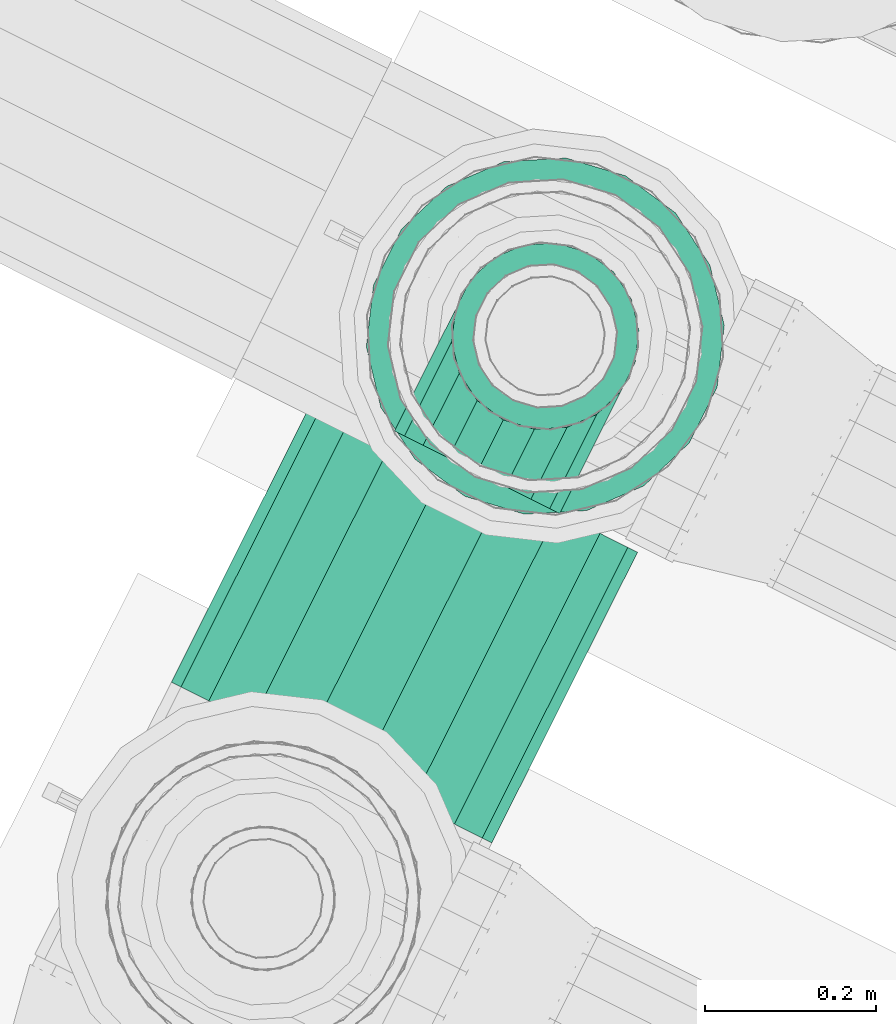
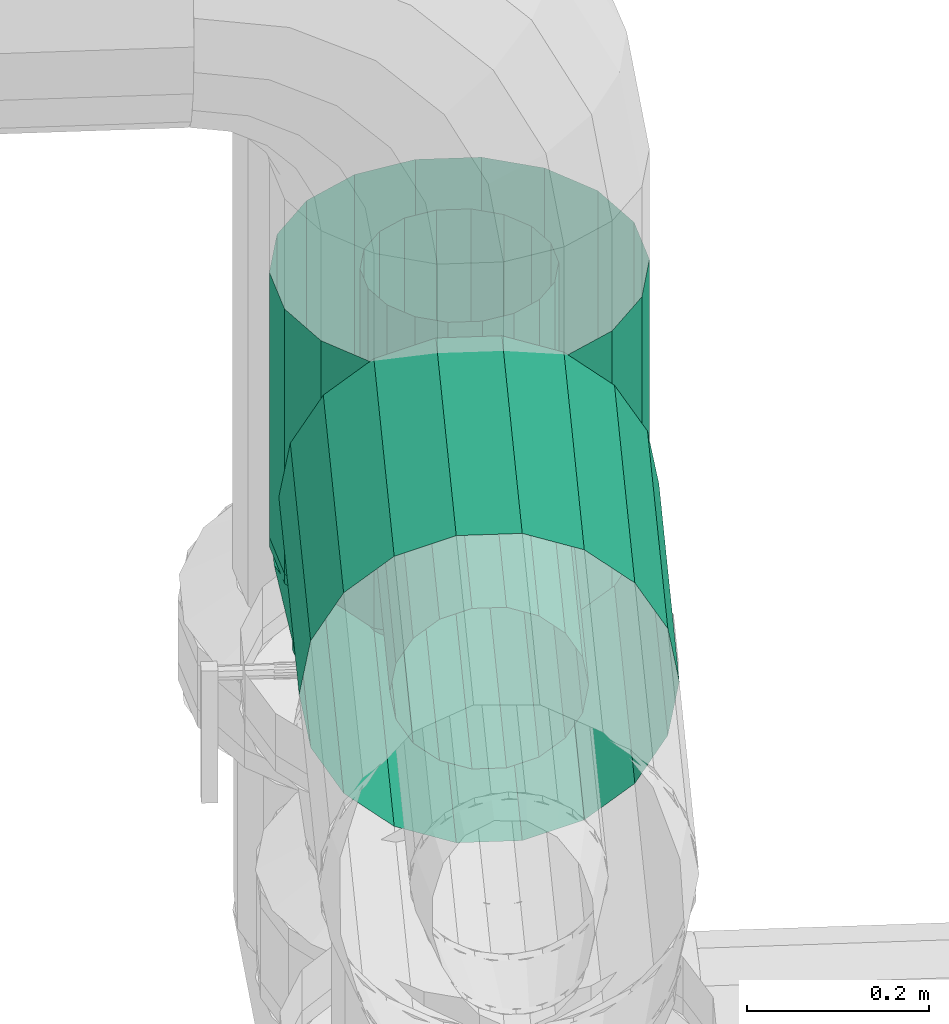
# One storey, part 112 of 152: 2 flow fittings, 1 flow segment.
"""IFC2X3 building model written with IfcOpenShell, lengths in metres."""

from ifc_helpers import new_model, si_unit, derived_unit, direction, frame, origin, place, context, subcontext, project, spatial, face_set, surface_model, source, transform, mapped, material, type_object, type_shapes, element, save


model = new_model("IFC2X3")

# Units and contexts
model_context = context("Model", 3, precision=5.2338327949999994e-05, world=origin(), true_north=direction((0.0, 1.0)))
body_context = subcontext(model_context, "Body", "Model", "MODEL_VIEW")
ifc_project = project(units=[si_unit("LENGTHUNIT", "METRE"), si_unit("AREAUNIT", "SQUARE_METRE"), si_unit("VOLUMEUNIT", "CUBIC_METRE"), si_unit("MASSUNIT", "GRAM", prefix="KILO"), si_unit("PLANEANGLEUNIT", "RADIAN"), derived_unit("THERMALTRANSMITTANCEUNIT", [(si_unit("MASSUNIT", "GRAM", prefix="KILO"), 1), (si_unit("THERMODYNAMICTEMPERATUREUNIT", "KELVIN"), -1), (si_unit("TIMEUNIT", "SECOND"), -3)])], contexts=[model_context])

# Site, building, storey
site_placement = place(None, frame((0.0, 0.0, 0.0), z_axis=(0.0, 0.0, 1.0), x_axis=(0.8939966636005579, -0.4480736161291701, 0.0)))
site = spatial("IfcSite", under=ifc_project, at=site_placement, Name="Default", CompositionType="ELEMENT")
building_placement = place(site_placement, origin())
building = spatial("IfcBuilding", under=site, at=building_placement, CompositionType="ELEMENT")
storey_placement = place(building_placement, frame((0.0, 0.0, 2.7499999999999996)))
storey = spatial("IfcBuildingStorey", under=building, at=storey_placement, Name="1. Obergeschoss", CompositionType="ELEMENT", Elevation=2.7499999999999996)

# Flow fitting
ifc_material = material(Name="IfcSurfaceStyle #9317")
distribution_element_type_1 = type_object("IfcDistributionElementType", Name="Abzweigstück 222781:Abzweigstück 222781", material=ifc_material)
shared_shape_1 = source(origin(), body_context, "Body", "SurfaceModel", [
    surface_model("IfcFaceBasedSurfaceModel", [(9.735320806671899, 7.327208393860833, 4.744306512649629), (9.728714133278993, 7.36467670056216, 4.744306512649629), (9.728714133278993, 7.36467670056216, 5.100306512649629), (9.735320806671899, 7.327208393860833, 5.100306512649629), (9.709690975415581, 7.397625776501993, 4.744306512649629), (9.709690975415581, 7.397625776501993, 5.100306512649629), (9.680545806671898, 7.422081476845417, 4.744306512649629), (9.680545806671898, 7.422081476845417, 5.100306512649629), (9.644793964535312, 7.43509408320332, 4.744306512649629), (9.644793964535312, 7.43509408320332, 5.100306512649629), (9.606747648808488, 7.435094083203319, 4.744306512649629), (9.606747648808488, 7.435094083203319, 5.100306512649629), (9.570995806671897, 7.422081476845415, 4.744306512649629), (9.570995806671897, 7.422081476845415, 5.100306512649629), (9.541850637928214, 7.39762577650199, 4.744306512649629), (9.541850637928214, 7.39762577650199, 5.100306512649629), (9.522827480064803, 7.364676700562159, 4.744306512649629), (9.522827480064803, 7.364676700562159, 5.100306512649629), (9.516220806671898, 7.327208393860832, 4.744306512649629), (9.516220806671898, 7.327208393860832, 5.100306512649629), (9.522827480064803, 7.289740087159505, 4.744306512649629), (9.522827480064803, 7.289740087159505, 5.100306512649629), (9.541850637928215, 7.256791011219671, 4.744306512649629), (9.541850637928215, 7.256791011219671, 5.100306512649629), (9.570995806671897, 7.232335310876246, 4.744306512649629), (9.570995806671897, 7.232335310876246, 5.100306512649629), (9.606747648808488, 7.219322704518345, 4.744306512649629), (9.606747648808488, 7.219322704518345, 5.100306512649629), (9.644793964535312, 7.219322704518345, 4.744306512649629), (9.644793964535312, 7.219322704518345, 5.100306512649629), (9.6805458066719, 7.2323353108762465, 4.744306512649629), (9.6805458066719, 7.2323353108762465, 5.100306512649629), (9.709690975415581, 7.256791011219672, 4.744306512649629), (9.709690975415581, 7.256791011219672, 5.100306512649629), (9.728714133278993, 7.2897400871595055, 4.744306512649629), (9.728714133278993, 7.2897400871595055, 5.100306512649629), (9.8353208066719, 7.327208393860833, 4.744306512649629), (9.822683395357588, 7.398878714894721, 4.744306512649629), (9.822683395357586, 7.398878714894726, 5.100306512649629), (9.8353208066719, 7.327208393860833, 5.100306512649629), (9.786295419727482, 7.461904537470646, 4.744306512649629), (9.786295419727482, 7.461904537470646, 5.100306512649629), (9.730545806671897, 7.508684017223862, 4.744306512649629), (9.730545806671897, 7.508684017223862, 5.100306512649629), (9.662158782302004, 7.53357485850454, 4.744306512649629), (9.662158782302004, 7.53357485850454, 5.100306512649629), (9.589382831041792, 7.53357485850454, 4.744306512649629), (9.589382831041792, 7.53357485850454, 5.100306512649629), (9.5209958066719, 7.508684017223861, 4.744306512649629), (9.5209958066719, 7.508684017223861, 5.100306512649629), (9.465246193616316, 7.4619045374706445, 4.744306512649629), (9.465246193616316, 7.4619045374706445, 5.100306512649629), (9.428858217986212, 7.398878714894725, 4.744306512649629), (9.428858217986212, 7.398878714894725, 5.100306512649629), (9.4162208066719, 7.32720839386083, 4.744306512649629), (9.4162208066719, 7.32720839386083, 5.100306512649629), (9.428858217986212, 7.255538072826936, 4.744306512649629), (9.428858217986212, 7.255538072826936, 5.100306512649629), (9.465246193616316, 7.192512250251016, 4.744306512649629), (9.465246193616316, 7.192512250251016, 5.100306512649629), (9.520995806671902, 7.145732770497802, 4.744306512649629), (9.520995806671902, 7.145732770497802, 5.100306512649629), (9.589382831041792, 7.1208419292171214, 4.744306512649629), (9.589382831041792, 7.1208419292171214, 5.100306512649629), (9.662158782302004, 7.120841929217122, 4.744306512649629), (9.662158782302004, 7.120841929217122, 5.100306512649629), (9.730545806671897, 7.145732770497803, 4.744306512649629), (9.730545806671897, 7.145732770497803, 5.100306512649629), (9.786295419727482, 7.192512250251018, 4.744306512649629), (9.786295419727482, 7.192512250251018, 5.100306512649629), (9.822683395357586, 7.255538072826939, 4.744306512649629), (9.822683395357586, 7.255538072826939, 5.100306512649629), (9.625770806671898, 7.217658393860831, 5.031856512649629), (9.588302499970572, 7.224265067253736, 5.025249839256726), (9.588302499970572, 7.149208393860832, 5.025249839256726), (9.625770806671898, 7.149208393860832, 5.031856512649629), (9.555353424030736, 7.243288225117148, 5.006226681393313), (9.555353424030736, 7.149208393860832, 5.006226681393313), (9.530897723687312, 7.272433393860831, 4.977081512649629), (9.530897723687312, 7.149208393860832, 4.977081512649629), (9.517885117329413, 7.30818523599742, 4.941329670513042), (9.517885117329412, 7.149208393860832, 4.941329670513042), (9.517885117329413, 7.30818523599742, 4.903283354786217), (9.517885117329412, 7.149208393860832, 4.903283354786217), (9.530897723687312, 7.272433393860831, 4.867531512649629), (9.530897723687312, 7.149208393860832, 4.867531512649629), (9.555353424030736, 7.243288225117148, 4.8383863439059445), (9.555353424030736, 7.149208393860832, 4.838386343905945), (9.588302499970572, 7.224265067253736, 4.819363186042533), (9.588302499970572, 7.149208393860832, 4.819363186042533), (9.625770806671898, 7.217658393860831, 4.812756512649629), (9.625770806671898, 7.149208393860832, 4.812756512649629), (9.663239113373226, 7.224265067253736, 4.8193631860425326), (9.663239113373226, 7.149208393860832, 4.8193631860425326), (9.696188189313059, 7.243288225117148, 4.838386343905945), (9.696188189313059, 7.149208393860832, 4.838386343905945), (9.72064388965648, 7.272433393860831, 4.867531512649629), (9.720643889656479, 7.149208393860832, 4.867531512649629), (9.733656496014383, 7.30818523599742, 4.9032833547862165), (9.733656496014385, 7.149208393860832, 4.9032833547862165), (9.733656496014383, 7.30818523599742, 4.941329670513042), (9.733656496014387, 7.149208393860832, 4.941329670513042), (9.72064388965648, 7.272433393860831, 4.977081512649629), (9.72064388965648, 7.149208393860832, 4.9770815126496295), (9.696188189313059, 7.243288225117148, 5.006226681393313), (9.696188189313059, 7.149208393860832, 5.006226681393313), (9.663239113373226, 7.224265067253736, 5.025249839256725), (9.663239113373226, 7.149208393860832, 5.025249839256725)], [face_set([[[0, 1, 2, 3]], [[1, 4, 5, 2]], [[4, 6, 7, 5]], [[6, 8, 9, 7]], [[8, 10, 11, 9]], [[10, 12, 13, 11]], [[12, 14, 15, 13]], [[14, 16, 17, 15]], [[16, 18, 19, 17]], [[18, 20, 21, 19]], [[20, 22, 23, 21]], [[22, 24, 25, 23]], [[24, 26, 27, 25]], [[26, 28, 29, 27]], [[28, 30, 31, 29]], [[30, 32, 33, 31]], [[32, 34, 35, 33]], [[34, 0, 3, 35]], [[36, 37, 38, 39]], [[37, 40, 41, 38]], [[40, 42, 43, 41]], [[42, 44, 45, 43]], [[44, 46, 47, 45]], [[46, 48, 49, 47]], [[48, 50, 51, 49]], [[50, 52, 53, 51]], [[52, 54, 55, 53]], [[54, 56, 57, 55]], [[56, 58, 59, 57]], [[58, 60, 61, 59]], [[60, 62, 63, 61]], [[62, 64, 65, 63]], [[64, 66, 67, 65]], [[66, 68, 69, 67]], [[68, 70, 71, 69]], [[70, 36, 39, 71]], [[72, 73, 74, 75]], [[73, 76, 77, 74]], [[76, 78, 79, 77]], [[78, 80, 81, 79]], [[80, 82, 83, 81]], [[82, 84, 85, 83]], [[84, 86, 87, 85]], [[86, 88, 89, 87]], [[88, 90, 91, 89]], [[90, 92, 93, 91]], [[92, 94, 95, 93]], [[94, 96, 97, 95]], [[96, 98, 99, 97]], [[98, 100, 101, 99]], [[100, 102, 103, 101]], [[102, 104, 105, 103]], [[104, 106, 107, 105]], [[106, 72, 75, 107]]])]),
])
type_shapes(distribution_element_type_1, [shared_shape_1])
flow_fitting_1_placement = place(storey_placement, frame((0.0, 0.0, -2.7499999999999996)))
element("IfcFlowFitting", 1, at=flow_fitting_1_placement, inside=storey, type_object=distribution_element_type_1, material=ifc_material, Name="Abzweigstück", ObjectType="Abzweigstück", context=body_context, shape_type="MappedRepresentation", body=[
    mapped(shared_shape_1, transform((0.0, 0.0, 0.0), scale=1.0)),
])

# Flow segment
distribution_element_type_2 = type_object("IfcDistributionElementType", Name="Stahlrohr nach DIN 2448 222999:Stahlrohr nach DIN 2448 222999", material=ifc_material)
shared_shape_2 = source(origin(), body_context, "Body", "SurfaceModel", [
    surface_model("IfcFaceBasedSurfaceModel", [(9.5162208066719, 6.769748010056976, 4.92230651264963), (9.522827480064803, 6.769748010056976, 4.959774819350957), (9.522827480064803, 7.149748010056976, 4.959774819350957), (9.5162208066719, 7.149748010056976, 4.92230651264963), (9.541850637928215, 6.769748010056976, 4.992723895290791), (9.541850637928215, 7.149748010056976, 4.992723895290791), (9.570995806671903, 6.769748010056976, 5.017179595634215), (9.570995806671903, 7.149748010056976, 5.017179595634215), (9.606747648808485, 6.769748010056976, 5.030192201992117), (9.606747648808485, 7.149748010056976, 5.030192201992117), (9.64479396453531, 6.769748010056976, 5.030192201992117), (9.64479396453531, 7.149748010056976, 5.030192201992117), (9.6805458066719, 6.769748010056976, 5.017179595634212), (9.6805458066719, 7.149748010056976, 5.017179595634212), (9.709690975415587, 6.769748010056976, 4.992723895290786), (9.709690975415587, 7.149748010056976, 4.992723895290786), (9.728714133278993, 6.769748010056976, 4.959774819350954), (9.728714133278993, 7.149748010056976, 4.959774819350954), (9.735320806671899, 6.769748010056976, 4.9223065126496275), (9.735320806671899, 7.149748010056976, 4.9223065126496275), (9.728714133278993, 6.769748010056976, 4.8848382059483), (9.728714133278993, 7.149748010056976, 4.8848382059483), (9.709690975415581, 6.769748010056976, 4.851889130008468), (9.709690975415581, 7.149748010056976, 4.851889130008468), (9.680545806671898, 6.769748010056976, 4.827433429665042), (9.680545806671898, 7.149748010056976, 4.827433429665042), (9.644793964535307, 6.769748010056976, 4.814420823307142), (9.644793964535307, 7.149748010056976, 4.814420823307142), (9.606747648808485, 6.769748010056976, 4.814420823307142), (9.606747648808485, 7.149748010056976, 4.814420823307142), (9.570995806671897, 6.769748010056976, 4.827433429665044), (9.570995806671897, 7.149748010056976, 4.827433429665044), (9.541850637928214, 6.769748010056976, 4.851889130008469), (9.541850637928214, 7.149748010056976, 4.851889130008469), (9.522827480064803, 6.769748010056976, 4.884838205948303), (9.522827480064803, 7.149748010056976, 4.884838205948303), (9.416220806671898, 6.769748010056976, 4.922306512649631), (9.428858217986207, 6.769748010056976, 4.99397683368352), (9.428858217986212, 7.149748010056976, 4.993976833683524), (9.416220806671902, 7.149748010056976, 4.922306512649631), (9.46524619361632, 6.769748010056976, 5.057002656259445), (9.46524619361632, 7.149748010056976, 5.057002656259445), (9.520995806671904, 6.769748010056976, 5.10378213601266), (9.520995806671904, 7.149748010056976, 5.10378213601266), (9.589382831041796, 6.769748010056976, 5.128672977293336), (9.589382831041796, 7.149748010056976, 5.128672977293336), (9.662158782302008, 6.769748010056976, 5.128672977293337), (9.662158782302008, 7.149748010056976, 5.128672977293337), (9.7305458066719, 6.769748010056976, 5.103782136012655), (9.7305458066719, 7.149748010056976, 5.103782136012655), (9.786295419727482, 6.769748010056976, 5.05700265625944), (9.786295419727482, 7.149748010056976, 5.05700265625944), (9.822683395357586, 6.769748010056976, 4.993976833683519), (9.822683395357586, 7.149748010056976, 4.993976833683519), (9.835320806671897, 6.769748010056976, 4.922306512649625), (9.835320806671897, 7.149748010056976, 4.922306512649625), (9.822683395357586, 6.769748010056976, 4.850636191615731), (9.822683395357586, 7.149748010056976, 4.850636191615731), (9.78629541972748, 6.769748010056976, 4.787610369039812), (9.78629541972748, 7.149748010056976, 4.787610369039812), (9.730545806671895, 6.769748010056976, 4.740830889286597), (9.730545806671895, 7.149748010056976, 4.740830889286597), (9.662158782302, 6.769748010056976, 4.715940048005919), (9.662158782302, 7.149748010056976, 4.715940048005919), (9.589382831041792, 6.769748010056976, 4.715940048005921), (9.589382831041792, 7.149748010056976, 4.715940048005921), (9.520995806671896, 6.769748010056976, 4.740830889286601), (9.520995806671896, 7.149748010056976, 4.740830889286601), (9.465246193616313, 6.769748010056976, 4.787610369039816), (9.465246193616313, 7.149748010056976, 4.787610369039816), (9.428858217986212, 6.769748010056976, 4.850636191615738), (9.428858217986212, 7.149748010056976, 4.850636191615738)], [face_set([[[0, 1, 2, 3]], [[1, 4, 5, 2]], [[4, 6, 7, 5]], [[6, 8, 9, 7]], [[8, 10, 11, 9]], [[10, 12, 13, 11]], [[12, 14, 15, 13]], [[14, 16, 17, 15]], [[16, 18, 19, 17]], [[18, 20, 21, 19]], [[20, 22, 23, 21]], [[22, 24, 25, 23]], [[24, 26, 27, 25]], [[26, 28, 29, 27]], [[28, 30, 31, 29]], [[30, 32, 33, 31]], [[32, 34, 35, 33]], [[34, 0, 3, 35]], [[36, 37, 38, 39]], [[37, 40, 41, 38]], [[40, 42, 43, 41]], [[42, 44, 45, 43]], [[44, 46, 47, 45]], [[46, 48, 49, 47]], [[48, 50, 51, 49]], [[50, 52, 53, 51]], [[52, 54, 55, 53]], [[54, 56, 57, 55]], [[56, 58, 59, 57]], [[58, 60, 61, 59]], [[60, 62, 63, 61]], [[62, 64, 65, 63]], [[64, 66, 67, 65]], [[66, 68, 69, 67]], [[68, 70, 71, 69]], [[70, 36, 39, 71]]])]),
])
type_shapes(distribution_element_type_2, [shared_shape_2])
flow_segment_placement = place(storey_placement, frame((0.0, 0.0, -2.7499999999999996)))
element("IfcFlowSegment", 2, at=flow_segment_placement, inside=storey, type_object=distribution_element_type_2, material=ifc_material, Name="Stahlrohr nach DIN 2448", ObjectType="Stahlrohr nach DIN 2448", context=body_context, shape_type="MappedRepresentation", body=[
    mapped(shared_shape_2, transform((0.0, 0.0, 0.0), scale=1.0)),
])

# Flow fitting
distribution_element_type_3 = type_object("IfcDistributionElementType", Name="Übergangsstück 223281:Übergangsstück 223281", material=ifc_material)
shared_shape_3 = source(origin(), body_context, "Body", "SurfaceModel", [
    surface_model("IfcFaceBasedSurfaceModel", [(9.541620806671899, 7.3272083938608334, 4.592306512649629), (9.546695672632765, 7.298427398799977, 4.592306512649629), (9.546695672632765, 7.298427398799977, 4.602765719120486), (9.541620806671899, 7.327208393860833, 4.602765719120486), (9.561308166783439, 7.27311781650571, 4.592306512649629), (9.561308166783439, 7.27311781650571, 4.602765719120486), (9.583695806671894, 7.254332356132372, 4.592306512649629), (9.583695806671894, 7.254332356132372, 4.602765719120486), (9.611158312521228, 7.2443368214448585, 4.592306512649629), (9.611158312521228, 7.2443368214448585, 4.602765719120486), (9.640383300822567, 7.244336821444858, 4.592306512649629), (9.640383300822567, 7.244336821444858, 4.602765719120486), (9.667845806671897, 7.254332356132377, 4.592306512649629), (9.667845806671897, 7.254332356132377, 4.602765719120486), (9.690233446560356, 7.273117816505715, 4.592306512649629), (9.690233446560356, 7.273117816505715, 4.602765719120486), (9.704845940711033, 7.2984273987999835, 4.592306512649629), (9.704845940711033, 7.2984273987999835, 4.602765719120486), (9.709920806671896, 7.327208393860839, 4.592306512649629), (9.709920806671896, 7.327208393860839, 4.602765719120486), (9.704845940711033, 7.355989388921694, 4.592306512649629), (9.704845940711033, 7.355989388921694, 4.602765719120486), (9.690233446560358, 7.381298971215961, 4.592306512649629), (9.690233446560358, 7.381298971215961, 4.602765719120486), (9.667845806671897, 7.400084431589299, 4.592306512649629), (9.667845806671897, 7.400084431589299, 4.602765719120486), (9.64038330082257, 7.410079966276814, 4.592306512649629), (9.64038330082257, 7.410079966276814, 4.602765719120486), (9.611158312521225, 7.410079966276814, 4.592306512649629), (9.611158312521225, 7.410079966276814, 4.602765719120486), (9.583695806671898, 7.400084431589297, 4.592306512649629), (9.583695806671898, 7.400084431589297, 4.602765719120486), (9.561308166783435, 7.381298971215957, 4.592306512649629), (9.561308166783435, 7.381298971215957, 4.602765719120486), (9.546695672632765, 7.355989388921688, 4.592306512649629), (9.546695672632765, 7.355989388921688, 4.602765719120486), (9.625770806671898, 7.243058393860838, 4.602765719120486), (9.654551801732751, 7.248133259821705, 4.602765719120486), (9.663239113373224, 7.22426506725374, 4.7317030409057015), (9.625770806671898, 7.217658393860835, 4.7317030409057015), (9.679861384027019, 7.262745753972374, 4.602765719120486), (9.696188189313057, 7.243288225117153, 4.7317030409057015), (9.698646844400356, 7.285133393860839, 4.602765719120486), (9.720643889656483, 7.272433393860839, 4.7317030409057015), (9.708642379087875, 7.312595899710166, 4.602765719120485), (9.733656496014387, 7.308185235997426, 4.731703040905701), (9.708642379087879, 7.341820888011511, 4.602765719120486), (9.733656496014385, 7.346231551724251, 4.7317030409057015), (9.698646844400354, 7.369283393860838, 4.602765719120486), (9.72064388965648, 7.381983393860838, 4.7317030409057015), (9.67986138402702, 7.391671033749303, 4.602765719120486), (9.696188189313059, 7.411128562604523, 4.7317030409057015), (9.654551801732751, 7.406283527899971, 4.602765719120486), (9.663239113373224, 7.430151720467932, 4.7317030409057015), (9.6257708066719, 7.411358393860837, 4.602765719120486), (9.6257708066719, 7.436758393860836, 4.7317030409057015), (9.596989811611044, 7.40628352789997, 4.602765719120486), (9.588302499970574, 7.430151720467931, 4.7317030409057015), (9.571680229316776, 7.391671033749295, 4.602765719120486), (9.555353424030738, 7.411128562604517, 4.7317030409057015), (9.552894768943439, 7.369283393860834, 4.602765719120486), (9.530897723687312, 7.381983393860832, 4.7317030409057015), (9.54289923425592, 7.341820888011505, 4.602765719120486), (9.517885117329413, 7.346231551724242, 4.7317030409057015), (9.542899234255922, 7.3125958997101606, 4.602765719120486), (9.517885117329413, 7.308185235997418, 4.7317030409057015), (9.552894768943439, 7.285133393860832, 4.602765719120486), (9.530897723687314, 7.272433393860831, 4.7317030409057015), (9.571680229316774, 7.262745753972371, 4.602765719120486), (9.555353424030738, 7.243288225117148, 4.7317030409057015), (9.596989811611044, 7.248133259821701, 4.602765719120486), (9.58830249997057, 7.224265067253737, 4.7317030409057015), (9.5162208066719, 7.32720839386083, 4.731703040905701), (9.522827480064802, 7.2897400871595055, 4.731703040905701), (9.522827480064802, 7.2897400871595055, 4.744306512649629), (9.5162208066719, 7.32720839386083, 4.744306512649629), (9.541850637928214, 7.256791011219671, 4.731703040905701), (9.541850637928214, 7.256791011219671, 4.744306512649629), (9.570995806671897, 7.2323353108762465, 4.731703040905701), (9.570995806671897, 7.2323353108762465, 4.744306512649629), (9.606747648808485, 7.219322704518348, 4.731703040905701), (9.606747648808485, 7.219322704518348, 4.744306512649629), (9.644793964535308, 7.219322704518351, 4.731703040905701), (9.644793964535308, 7.219322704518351, 4.744306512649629), (9.680545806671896, 7.232335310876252, 4.731703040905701), (9.680545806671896, 7.232335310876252, 4.744306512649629), (9.70969097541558, 7.256791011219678, 4.731703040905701), (9.70969097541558, 7.256791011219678, 4.744306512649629), (9.728714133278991, 7.289740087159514, 4.731703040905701), (9.728714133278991, 7.289740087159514, 4.744306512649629), (9.735320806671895, 7.327208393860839, 4.731703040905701), (9.735320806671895, 7.327208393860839, 4.744306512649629), (9.728714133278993, 7.3646767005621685, 4.731703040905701), (9.728714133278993, 7.3646767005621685, 4.744306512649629), (9.709690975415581, 7.397625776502, 4.731703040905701), (9.709690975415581, 7.397625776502, 4.744306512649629), (9.680545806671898, 7.422081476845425, 4.731703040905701), (9.680545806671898, 7.422081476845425, 4.744306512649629), (9.644793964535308, 7.435094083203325, 4.731703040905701), (9.644793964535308, 7.435094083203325, 4.744306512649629), (9.606747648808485, 7.435094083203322, 4.731703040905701), (9.606747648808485, 7.435094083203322, 4.744306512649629), (9.570995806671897, 7.4220814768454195, 4.731703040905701), (9.570995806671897, 7.4220814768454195, 4.744306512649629), (9.541850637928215, 7.397625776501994, 4.731703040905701), (9.541850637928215, 7.397625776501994, 4.744306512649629), (9.522827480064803, 7.36467670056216, 4.731703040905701), (9.522827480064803, 7.36467670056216, 4.744306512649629), (9.4416208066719, 7.327208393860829, 4.592306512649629), (9.452726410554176, 7.264225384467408, 4.592306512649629), (9.452726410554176, 7.264225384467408, 4.602765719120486), (9.4416208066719, 7.327208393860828, 4.602765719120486), (9.484703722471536, 7.208839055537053, 4.592306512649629), (9.484703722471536, 7.208839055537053, 4.602765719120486), (9.533695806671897, 7.167729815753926, 4.592306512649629), (9.533695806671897, 7.167729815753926, 4.602765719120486), (9.593793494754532, 7.145856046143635, 4.592306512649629), (9.593793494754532, 7.145856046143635, 4.602765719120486), (9.657748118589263, 7.145856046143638, 4.592306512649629), (9.657748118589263, 7.145856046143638, 4.602765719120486), (9.717845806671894, 7.167729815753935, 4.592306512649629), (9.717845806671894, 7.167729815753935, 4.602765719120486), (9.766837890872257, 7.208839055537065, 4.592306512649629), (9.766837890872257, 7.208839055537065, 4.602765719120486), (9.798815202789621, 7.264225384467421, 4.592306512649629), (9.798815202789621, 7.264225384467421, 4.602765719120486), (9.809920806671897, 7.327208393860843, 4.592306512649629), (9.809920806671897, 7.327208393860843, 4.602765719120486), (9.798815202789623, 7.390191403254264, 4.592306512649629), (9.798815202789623, 7.390191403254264, 4.602765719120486), (9.766837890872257, 7.445577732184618, 4.592306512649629), (9.766837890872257, 7.445577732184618, 4.602765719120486), (9.717845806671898, 7.486686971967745, 4.592306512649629), (9.717845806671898, 7.486686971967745, 4.602765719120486), (9.657748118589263, 7.508560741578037, 4.592306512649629), (9.657748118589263, 7.508560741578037, 4.602765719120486), (9.593793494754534, 7.508560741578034, 4.592306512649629), (9.593793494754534, 7.508560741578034, 4.602765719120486), (9.533695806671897, 7.486686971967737, 4.592306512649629), (9.533695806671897, 7.486686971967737, 4.602765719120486), (9.484703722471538, 7.445577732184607, 4.592306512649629), (9.484703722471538, 7.445577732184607, 4.602765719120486), (9.452726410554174, 7.390191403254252, 4.592306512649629), (9.452726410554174, 7.390191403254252, 4.602765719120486), (9.625770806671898, 7.1430583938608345, 4.602765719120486), (9.688753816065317, 7.154163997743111, 4.602765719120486), (9.697441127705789, 7.130295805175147, 4.731703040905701), (9.625770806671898, 7.117658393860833, 4.731703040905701), (9.744140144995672, 7.18614130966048, 4.602765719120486), (9.76046695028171, 7.166683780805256, 4.731703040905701), (9.785249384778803, 7.235133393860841, 4.602765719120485), (9.807246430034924, 7.222433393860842, 4.7317030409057), (9.807123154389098, 7.295231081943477, 4.602765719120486), (9.832137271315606, 7.290820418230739, 4.731703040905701), (9.807123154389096, 7.3591857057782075, 4.602765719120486), (9.832137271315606, 7.363596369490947, 4.731703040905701), (9.785249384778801, 7.419283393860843, 4.602765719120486), (9.807246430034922, 7.431983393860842, 4.731703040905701), (9.744140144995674, 7.468275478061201, 4.602765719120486), (9.760466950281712, 7.487733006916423, 4.7317030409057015), (9.68875381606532, 7.500252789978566, 4.602765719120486), (9.697441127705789, 7.524120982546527, 4.731703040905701), (9.6257708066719, 7.511358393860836, 4.602765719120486), (9.6257708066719, 7.536758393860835, 4.731703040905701), (9.562787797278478, 7.5002527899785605, 4.602765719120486), (9.554100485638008, 7.524120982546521, 4.731703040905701), (9.507401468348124, 7.468275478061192, 4.602765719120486), (9.491074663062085, 7.487733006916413, 4.731703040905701), (9.466292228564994, 7.419283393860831, 4.602765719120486), (9.44429518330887, 7.431983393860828, 4.731703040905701), (9.444418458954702, 7.359185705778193, 4.602765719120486), (9.419404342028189, 7.363596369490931, 4.731703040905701), (9.444418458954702, 7.295231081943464, 4.602765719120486), (9.419404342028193, 7.29082041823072, 4.731703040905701), (9.466292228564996, 7.2351333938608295, 4.602765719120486), (9.44429518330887, 7.222433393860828, 4.731703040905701), (9.507401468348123, 7.18614130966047, 4.602765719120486), (9.491074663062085, 7.166683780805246, 4.731703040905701), (9.562787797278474, 7.154163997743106, 4.602765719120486), (9.554100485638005, 7.130295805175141, 4.731703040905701), (9.4162208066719, 7.327208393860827, 4.731703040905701), (9.428858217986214, 7.255538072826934, 4.731703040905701), (9.428858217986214, 7.255538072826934, 4.744306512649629), (9.4162208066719, 7.327208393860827, 4.744306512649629), (9.465246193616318, 7.192512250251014, 4.731703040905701), (9.465246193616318, 7.192512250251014, 4.744306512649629), (9.520995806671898, 7.145732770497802, 4.731703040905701), (9.520995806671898, 7.145732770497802, 4.744306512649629), (9.589382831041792, 7.120841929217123, 4.731703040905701), (9.589382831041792, 7.120841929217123, 4.744306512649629), (9.662158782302, 7.120841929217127, 4.731703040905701), (9.662158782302, 7.120841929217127, 4.744306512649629), (9.730545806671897, 7.145732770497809, 4.731703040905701), (9.730545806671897, 7.145732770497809, 4.744306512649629), (9.78629541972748, 7.192512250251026, 4.731703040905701), (9.78629541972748, 7.192512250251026, 4.744306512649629), (9.822683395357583, 7.255538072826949, 4.731703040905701), (9.822683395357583, 7.255538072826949, 4.744306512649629), (9.835320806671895, 7.327208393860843, 4.731703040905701), (9.835320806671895, 7.327208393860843, 4.744306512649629), (9.822683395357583, 7.398878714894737, 4.731703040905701), (9.822683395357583, 7.398878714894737, 4.744306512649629), (9.786295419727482, 7.461904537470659, 4.731703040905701), (9.786295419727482, 7.461904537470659, 4.744306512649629), (9.730545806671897, 7.508684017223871, 4.731703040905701), (9.730545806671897, 7.508684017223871, 4.744306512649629), (9.662158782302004, 7.533574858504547, 4.731703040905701), (9.662158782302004, 7.533574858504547, 4.744306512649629), (9.589382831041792, 7.5335748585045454, 4.731703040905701), (9.589382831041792, 7.5335748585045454, 4.744306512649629), (9.5209958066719, 7.508684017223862, 4.731703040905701), (9.5209958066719, 7.508684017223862, 4.744306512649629), (9.46524619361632, 7.461904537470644, 4.731703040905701), (9.46524619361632, 7.461904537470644, 4.744306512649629), (9.428858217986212, 7.398878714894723, 4.731703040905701), (9.428858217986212, 7.398878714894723, 4.744306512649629)], [face_set([[[0, 1, 2, 3]], [[1, 4, 5, 2]], [[4, 6, 7, 5]], [[6, 8, 9, 7]], [[8, 10, 11, 9]], [[10, 12, 13, 11]], [[12, 14, 15, 13]], [[14, 16, 17, 15]], [[16, 18, 19, 17]], [[18, 20, 21, 19]], [[20, 22, 23, 21]], [[22, 24, 25, 23]], [[24, 26, 27, 25]], [[26, 28, 29, 27]], [[28, 30, 31, 29]], [[30, 32, 33, 31]], [[32, 34, 35, 33]], [[34, 0, 3, 35]], [[36, 37, 38, 39]], [[37, 40, 41, 38]], [[40, 42, 43, 41]], [[42, 44, 45, 43]], [[44, 46, 47, 45]], [[46, 48, 49, 47]], [[48, 50, 51, 49]], [[50, 52, 53, 51]], [[52, 54, 55, 53]], [[54, 56, 57, 55]], [[56, 58, 59, 57]], [[58, 60, 61, 59]], [[60, 62, 63, 61]], [[62, 64, 65, 63]], [[64, 66, 67, 65]], [[66, 68, 69, 67]], [[68, 70, 71, 69]], [[70, 36, 39, 71]], [[72, 73, 74, 75]], [[73, 76, 77, 74]], [[76, 78, 79, 77]], [[78, 80, 81, 79]], [[80, 82, 83, 81]], [[82, 84, 85, 83]], [[84, 86, 87, 85]], [[86, 88, 89, 87]], [[88, 90, 91, 89]], [[90, 92, 93, 91]], [[92, 94, 95, 93]], [[94, 96, 97, 95]], [[96, 98, 99, 97]], [[98, 100, 101, 99]], [[100, 102, 103, 101]], [[102, 104, 105, 103]], [[104, 106, 107, 105]], [[106, 72, 75, 107]], [[108, 109, 110, 111]], [[109, 112, 113, 110]], [[112, 114, 115, 113]], [[114, 116, 117, 115]], [[116, 118, 119, 117]], [[118, 120, 121, 119]], [[120, 122, 123, 121]], [[122, 124, 125, 123]], [[124, 126, 127, 125]], [[126, 128, 129, 127]], [[128, 130, 131, 129]], [[130, 132, 133, 131]], [[132, 134, 135, 133]], [[134, 136, 137, 135]], [[136, 138, 139, 137]], [[138, 140, 141, 139]], [[140, 142, 143, 141]], [[142, 108, 111, 143]], [[144, 145, 146, 147]], [[145, 148, 149, 146]], [[148, 150, 151, 149]], [[150, 152, 153, 151]], [[152, 154, 155, 153]], [[154, 156, 157, 155]], [[156, 158, 159, 157]], [[158, 160, 161, 159]], [[160, 162, 163, 161]], [[162, 164, 165, 163]], [[164, 166, 167, 165]], [[166, 168, 169, 167]], [[168, 170, 171, 169]], [[170, 172, 173, 171]], [[172, 174, 175, 173]], [[174, 176, 177, 175]], [[176, 178, 179, 177]], [[178, 144, 147, 179]], [[180, 181, 182, 183]], [[181, 184, 185, 182]], [[184, 186, 187, 185]], [[186, 188, 189, 187]], [[188, 190, 191, 189]], [[190, 192, 193, 191]], [[192, 194, 195, 193]], [[194, 196, 197, 195]], [[196, 198, 199, 197]], [[198, 200, 201, 199]], [[200, 202, 203, 201]], [[202, 204, 205, 203]], [[204, 206, 207, 205]], [[206, 208, 209, 207]], [[208, 210, 211, 209]], [[210, 212, 213, 211]], [[212, 214, 215, 213]], [[214, 180, 183, 215]]])]),
])
type_shapes(distribution_element_type_3, [shared_shape_3])
flow_fitting_2_placement = place(storey_placement, frame((0.0, 0.0, -2.7499999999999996)))
element("IfcFlowFitting", 3, at=flow_fitting_2_placement, inside=storey, type_object=distribution_element_type_3, material=ifc_material, Name="Übergangsstück", ObjectType="Übergangsstück", context=body_context, shape_type="MappedRepresentation", body=[
    mapped(shared_shape_3, transform((0.0, 0.0, 0.0), scale=1.0)),
])

save(model, "model.ifc")
